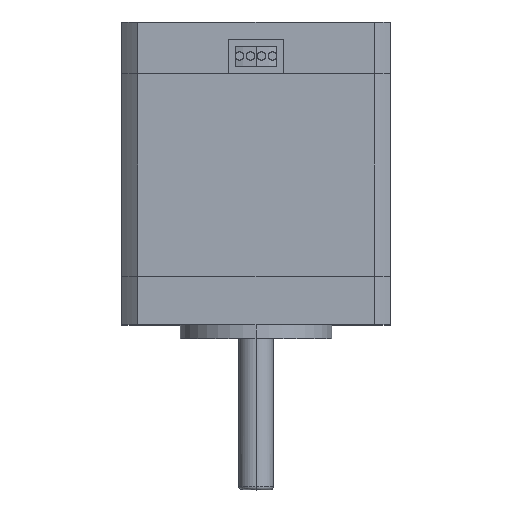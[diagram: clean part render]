
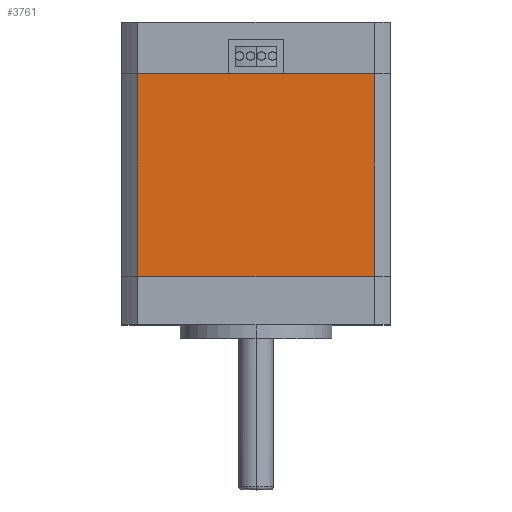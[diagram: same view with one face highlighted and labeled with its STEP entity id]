
A CAD part, top view. The second image highlights one B-rep face of the part: STEP entity #3761.
In plain terms, the highlighted planar face has unit normal (0, 0, 1).
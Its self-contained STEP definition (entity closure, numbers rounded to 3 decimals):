
#74 = CARTESIAN_POINT ( 'NONE',  ( -19.5, 29.5, 19.5 ) ) ;
#352 = LINE ( 'NONE', #4903, #1315 ) ;
#366 = ORIENTED_EDGE ( 'NONE', *, *, #2962, .F. ) ;
#445 = AXIS2_PLACEMENT_3D ( 'NONE', #74, #2419, #5047 ) ;
#461 = FACE_OUTER_BOUND ( 'NONE', #4489, .T. ) ;
#571 = ORIENTED_EDGE ( 'NONE', *, *, #3723, .T. ) ;
#858 = DIRECTION ( 'NONE',  ( 1., 0., 0. ) ) ;
#923 = DIRECTION ( 'NONE',  ( 0., 1., 0. ) ) ;
#1217 = DIRECTION ( 'NONE',  ( 0., -1., 0. ) ) ;
#1315 = VECTOR ( 'NONE', #4410, 1000. ) ;
#1565 = VECTOR ( 'NONE', #1217, 1000. ) ;
#1690 = VECTOR ( 'NONE', #858, 1000. ) ;
#1890 = CARTESIAN_POINT ( 'NONE',  ( -17.197, 0., 19.5 ) ) ;
#1949 = CARTESIAN_POINT ( 'NONE',  ( 17.197, 29.5, 19.5 ) ) ;
#2034 = PLANE ( 'NONE',  #445 ) ;
#2342 = VERTEX_POINT ( 'NONE', #1949 ) ;
#2419 = DIRECTION ( 'NONE',  ( 0., 0., -1. ) ) ;
#2459 = CARTESIAN_POINT ( 'NONE',  ( -17.197, 0., 19.5 ) ) ;
#2587 = EDGE_CURVE ( 'NONE', #3995, #2342, #352, .T. ) ;
#2691 = LINE ( 'NONE', #4962, #1565 ) ;
#2962 = EDGE_CURVE ( 'NONE', #4538, #3995, #4832, .T. ) ;
#3382 = EDGE_CURVE ( 'NONE', #2342, #4251, #2691, .T. ) ;
#3723 = EDGE_CURVE ( 'NONE', #4538, #4251, #4887, .T. ) ;
#3727 = CARTESIAN_POINT ( 'NONE',  ( 17.197, 0., 19.5 ) ) ;
#3761 = ADVANCED_FACE ( 'NONE', ( #461 ), #2034, .F. ) ;
#3887 = ORIENTED_EDGE ( 'NONE', *, *, #3382, .F. ) ;
#3924 = CARTESIAN_POINT ( 'NONE',  ( -19.5, 0., 19.5 ) ) ;
#3995 = VERTEX_POINT ( 'NONE', #4474 ) ;
#4099 = ORIENTED_EDGE ( 'NONE', *, *, #2587, .F. ) ;
#4251 = VERTEX_POINT ( 'NONE', #3727 ) ;
#4410 = DIRECTION ( 'NONE',  ( 1., 0., 0. ) ) ;
#4474 = CARTESIAN_POINT ( 'NONE',  ( -17.197, 29.5, 19.5 ) ) ;
#4489 = EDGE_LOOP ( 'NONE', ( #366, #571, #3887, #4099 ) ) ;
#4538 = VERTEX_POINT ( 'NONE', #2459 ) ;
#4832 = LINE ( 'NONE', #1890, #4980 ) ;
#4887 = LINE ( 'NONE', #3924, #1690 ) ;
#4903 = CARTESIAN_POINT ( 'NONE',  ( -19.5, 29.5, 19.5 ) ) ;
#4962 = CARTESIAN_POINT ( 'NONE',  ( 17.197, 0., 19.5 ) ) ;
#4980 = VECTOR ( 'NONE', #923, 1000. ) ;
#5047 = DIRECTION ( 'NONE',  ( -1., 0., 0. ) ) ;
